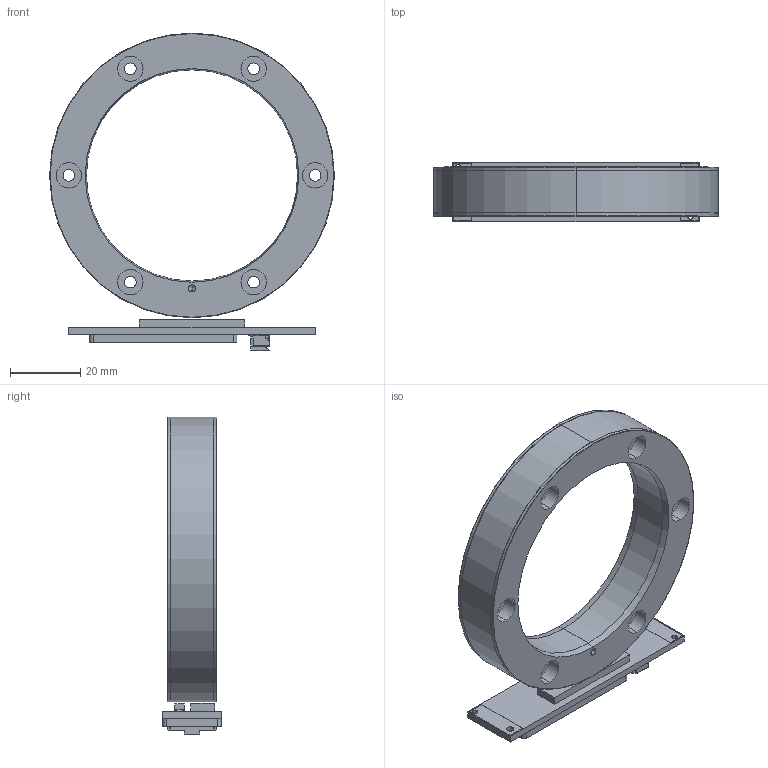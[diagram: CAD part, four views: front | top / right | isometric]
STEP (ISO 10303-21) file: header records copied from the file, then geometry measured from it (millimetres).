
FILE_DESCRIPTION (( 'STEP AP214' ), '1' );
FILE_NAME ('DBRxHx_SAR081_exposed.STEP', '2024-02-02T11:00:46', ( '' ), ( '' ), 'SwSTEP 2.0', 'SolidWorks 2022', '' );
FILE_SCHEMA (( 'AUTOMOTIVE_DESIGN' ));
Length unit declared in the file: millimetre
Products named in the file (1): DBRxHx_SAR081_exposed
Bounding box: 80.9 x 17 x 90.32 mm (x, y, z)
Volume: 29947.6 mm3; surface area: 15994 mm2
Topology: 1 solids, 2 shells, 1610 faces, 4461 edges, 2955 vertices
Faces by surface type: plane 1221, bspline 203, cylinder 150, cone 24, torus 8, sphere 4
Entity records: 79475 total; most frequent: CARTESIAN_POINT 25210, ORIENTED_EDGE 8900, DIRECTION 5290, EDGE_CURVE 4450, VERTEX_POINT 2954, B_SPLINE_CURVE_WITH_KNOTS 2158, LINE 2110, VECTOR 2110
